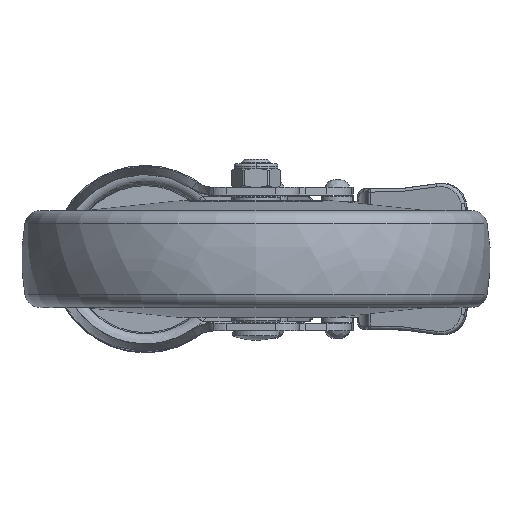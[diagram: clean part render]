
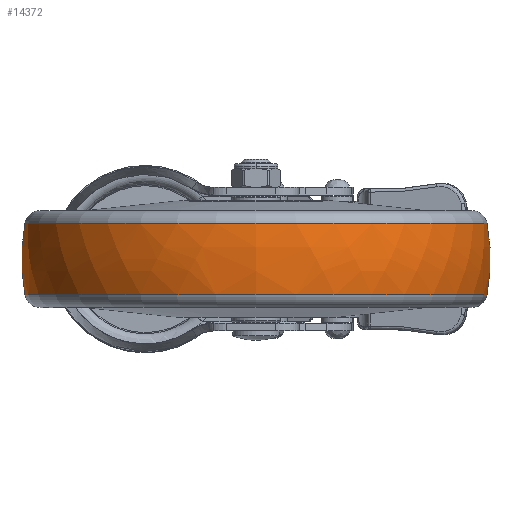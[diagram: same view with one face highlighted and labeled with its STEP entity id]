
A CAD part, front view. The second image highlights one B-rep face of the part: STEP entity #14372.
In plain terms, the highlighted free-form (B-spline) face has degree [3, 3] with [7, 4] control points.
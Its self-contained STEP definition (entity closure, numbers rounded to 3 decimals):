
#13601=CARTESIAN_POINT('',(-11.405,0.,0.));
#13602=DIRECTION('',(-1.,0.,0.));
#13603=DIRECTION('',(0.,1.,0.));
#13604=AXIS2_PLACEMENT_3D('',#13601,#13602,#13603);
#13616=CARTESIAN_POINT('',(0.,12.018,0.));
#13617=DIRECTION('',(0.,0.,1.));
#13618=DIRECTION('',(0.181,0.983,0.));
#13619=AXIS2_PLACEMENT_3D('',#13616,#13617,#13618);
#13621=CARTESIAN_POINT('',(0.,-12.018,0.));
#13622=DIRECTION('',(0.,0.,-1.));
#13623=DIRECTION('',(0.181,-0.983,0.));
#13624=AXIS2_PLACEMENT_3D('',#13621,#13622,#13623);
#13626=CARTESIAN_POINT('',(11.405,0.,0.));
#13627=DIRECTION('',(-1.,0.,0.));
#13628=DIRECTION('',(0.,1.,0.));
#13629=AXIS2_PLACEMENT_3D('',#13626,#13627,#13628);
#13878=CARTESIAN_POINT('',(11.405,73.977,0.));
#13880=VERTEX_POINT('',#13878);
#13881=CARTESIAN_POINT('',(-11.405,73.977,0.));
#13882=VERTEX_POINT('',#13881);
#13930=CARTESIAN_POINT('',(11.405,-73.977,
0.));
#13932=VERTEX_POINT('',#13930);
#13933=CARTESIAN_POINT('',(-11.405,-73.977,
0.));
#13934=VERTEX_POINT('',#13933);
#14336=CARTESIAN_POINT('',(-11.856,-73.746,
4.64));
#14337=CARTESIAN_POINT('',(-4.,-75.249,
4.734));
#14338=CARTESIAN_POINT('',(4.,-75.249,
4.734));
#14339=CARTESIAN_POINT('',(11.856,-73.746,
4.64));
#14340=CARTESIAN_POINT('',(-11.856,-76.601,
-40.744));
#14341=CARTESIAN_POINT('',(-4.,-78.162,
-41.574));
#14342=CARTESIAN_POINT('',(4.,-78.162,
-41.574));
#14343=CARTESIAN_POINT('',(11.856,-76.601,
-40.744));
#14344=CARTESIAN_POINT('',(-11.856,-45.473,
-73.892));
#14345=CARTESIAN_POINT('',(-4.,-46.399,
-75.397));
#14346=CARTESIAN_POINT('',(4.,-46.399,
-75.397));
#14347=CARTESIAN_POINT('',(11.856,-45.473,
-73.892));
#14348=CARTESIAN_POINT('',(-11.856,0.,
-73.892));
#14349=CARTESIAN_POINT('',(-4.,0.,
-75.397));
#14350=CARTESIAN_POINT('',(4.,0.,
-75.397));
#14351=CARTESIAN_POINT('',(11.856,0.,
-73.892));
#14352=CARTESIAN_POINT('',(-11.856,45.473,
-73.892));
#14353=CARTESIAN_POINT('',(-4.,46.399,
-75.397));
#14354=CARTESIAN_POINT('',(4.,46.399,
-75.397));
#14355=CARTESIAN_POINT('',(11.856,45.473,
-73.892));
#14356=CARTESIAN_POINT('',(-11.856,76.601,
-40.744));
#14357=CARTESIAN_POINT('',(-4.,78.162,
-41.574));
#14358=CARTESIAN_POINT('',(4.,78.162,
-41.574));
#14359=CARTESIAN_POINT('',(11.856,76.601,
-40.744));
#14360=CARTESIAN_POINT('',(-11.856,73.746,
4.64));
#14361=CARTESIAN_POINT('',(-4.,75.249,
4.734));
#14362=CARTESIAN_POINT('',(4.,75.249,4.734));
#14363=CARTESIAN_POINT('',(11.856,73.746,4.64));
#14364=(BOUNDED_SURFACE()B_SPLINE_SURFACE(3,3,((#14336,#14337,#14338,#14339),(
#14340,#14341,#14342,#14343),(#14344,#14345,#14346,#14347),(#14348,#14349,
#14350,#14351),(#14352,#14353,#14354,#14355),(#14356,#14357,#14358,#14359),(
#14360,#14361,#14362,#14363)),.UNSPECIFIED.,.F.,.F.,.F.)B_SPLINE_SURFACE_WITH_KNOTS((4,3,4),(4,4),(0.,1.,2.),(0.,1.),.UNSPECIFIED.)GEOMETRIC_REPRESENTATION_ITEM()RATIONAL_B_SPLINE_SURFACE(((1.198,1.184,
1.184,1.198),(0.946,0.935,
0.935,0.946),(0.946,0.935,
0.935,0.946),(1.198,1.184,
1.184,1.198),(0.946,0.935,
0.935,0.946),(0.946,0.935,
0.935,0.946),(1.198,1.184,
1.184,1.198)))REPRESENTATION_ITEM('')SURFACE());
#14365=ORIENTED_EDGE('',*,*,#14326,.T.);
#14366=ORIENTED_EDGE('',*,*,#14279,.T.);
#14367=ORIENTED_EDGE('',*,*,#14330,.F.);
#14369=ORIENTED_EDGE('',*,*,#14368,.F.);
#14370=EDGE_LOOP('',(#14365,#14366,#14367,#14369));
#14371=FACE_OUTER_BOUND('',#14370,.F.);
#13605=CIRCLE('',#13604,73.977);
#13620=CIRCLE('',#13619,63.);
#13625=CIRCLE('',#13624,63.);
#13630=CIRCLE('',#13629,73.977);
#14279=EDGE_CURVE('',#13882,#13934,#13605,.T.);
#14326=EDGE_CURVE('',#13880,#13882,#13620,.T.);
#14330=EDGE_CURVE('',#13932,#13934,#13625,.T.);
#14368=EDGE_CURVE('',#13880,#13932,#13630,.T.);
#14372=ADVANCED_FACE('',(#14371),#14364,.T.);
